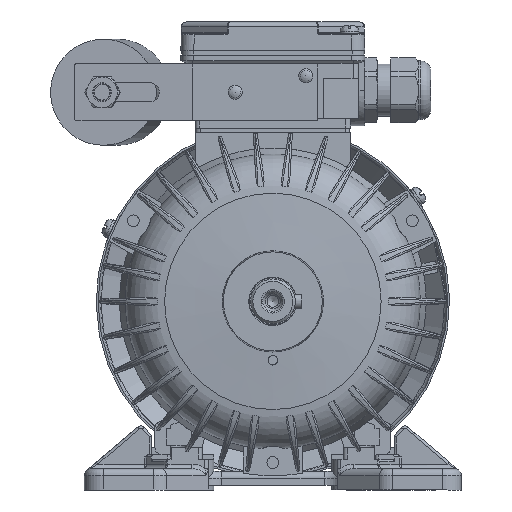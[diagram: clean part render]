
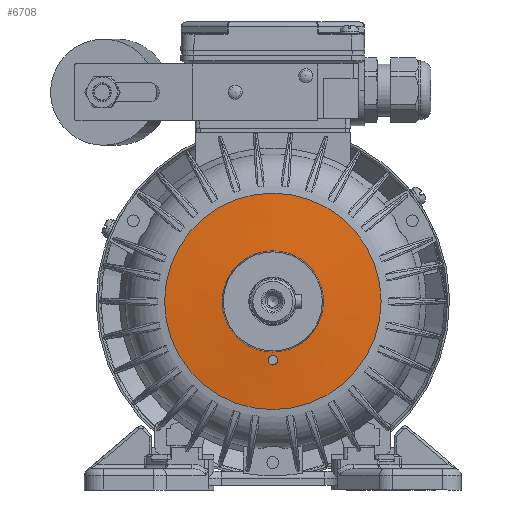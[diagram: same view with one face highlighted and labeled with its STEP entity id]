
A CAD part, left-side view. The second image highlights one B-rep face of the part: STEP entity #6708.
In plain terms, the highlighted conical face has half-angle 85.5 degrees and reference radius 21.472 mm.
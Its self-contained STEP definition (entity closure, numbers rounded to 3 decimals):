
#6708 = ADVANCED_FACE( '', ( #14633, #14634, #14635 ), #14636, .T. );
#14633 = FACE_OUTER_BOUND( '', #38634, .T. );
#14634 = FACE_BOUND( '', #38635, .T. );
#14635 = FACE_BOUND( '', #38636, .T. );
#14636 = CONICAL_SURFACE( '', #38637, 21.472, 1.492 );
#38634 = EDGE_LOOP( '', ( #75992 ) );
#38635 = EDGE_LOOP( '', ( #75993 ) );
#38636 = EDGE_LOOP( '', ( #75994 ) );
#38637 = AXIS2_PLACEMENT_3D( '', #75995, #75996, #75997 );
#75992 = ORIENTED_EDGE( '', *, *, #92518, .T. );
#75993 = ORIENTED_EDGE( '', *, *, #96889, .F. );
#75994 = ORIENTED_EDGE( '', *, *, #91438, .T. );
#75995 = CARTESIAN_POINT( '', ( 0., 6., 0. ) );
#75996 = DIRECTION( '', ( 0., 1., 0. ) );
#75997 = DIRECTION( '', ( 0., 0., 1. ) );
#91438 = EDGE_CURVE( '', #103792, #103792, #103793, .T. );
#92518 = EDGE_CURVE( '', #105645, #105645, #105646, .T. );
#96889 = EDGE_CURVE( '', #112264, #112264, #112265, .T. );
#103792 = VERTEX_POINT( '', #126391 );
#103793 = B_SPLINE_CURVE_WITH_KNOTS( '', 3, ( #126392, #126393, #126394, #126395, #126396, #126397, #126398, #126399, #126400, #126401, #126402, #126403, #126404, #126405, #126406, #126407, #126408, #126409, #126410, #126411, #126412, #126413, #126414, #126415, #126416, #126417, #126418, #126419, #126420, #126421, #126422, #126423, #126424, #126425, #126426, #126427, #126428, #126429, #126430, #126431, #126432, #126433, #126434, #126435, #126436, #126437, #126438, #126439, #126440, #126441, #126442, #126443, #126444, #126445, #126446, #126447 ), .UNSPECIFIED., .T., .F., ( 2, 2, 2, 2, 2, 2, 2, 2, 2, 2, 2, 2, 2, 2, 2, 2, 2, 2, 2, 2, 2, 2, 2, 2, 2, 2, 2, 2, 2, 2 ), ( -0.001, 0., 0., 0.001, 0.001, 0.002, 0.002, 0.003, 0.004, 0.004, 0.004, 0.005, 0.005, 0.005, 0.006, 0.006, 0.007, 0.007, 0.008, 0.008, 0.009, 0.009, 0.009, 0.01, 0.011, 0.011, 0.011, 0.012, 0.013, 0.013 ), .UNSPECIFIED. );
#105645 = VERTEX_POINT( '', #134606 );
#105646 = CIRCLE( '', #134607, 45.912 );
#112264 = VERTEX_POINT( '', #154084 );
#112265 = CIRCLE( '', #154085, 21.472 );
#126391 = CARTESIAN_POINT( '', ( -1.41, 6.392, -26.418 ) );
#126392 = CARTESIAN_POINT( '', ( -1.223, 6.406, -26.605 ) );
#126393 = CARTESIAN_POINT( '', ( -1.504, 6.385, -26.325 ) );
#126394 = CARTESIAN_POINT( '', ( -1.587, 6.378, -26.224 ) );
#126395 = CARTESIAN_POINT( '', ( -1.732, 6.362, -26.008 ) );
#126396 = CARTESIAN_POINT( '', ( -1.795, 6.353, -25.891 ) );
#126397 = CARTESIAN_POINT( '', ( -1.896, 6.334, -25.65 ) );
#126398 = CARTESIAN_POINT( '', ( -1.934, 6.325, -25.525 ) );
#126399 = CARTESIAN_POINT( '', ( -1.986, 6.305, -25.269 ) );
#126400 = CARTESIAN_POINT( '', ( -2., 6.295, -25.137 ) );
#126401 = CARTESIAN_POINT( '', ( -2.001, 6.264, -24.746 ) );
#126402 = CARTESIAN_POINT( '', ( -1.95, 6.243, -24.483 ) );
#126403 = CARTESIAN_POINT( '', ( -1.752, 6.204, -24.002 ) );
#126404 = CARTESIAN_POINT( '', ( -1.605, 6.186, -23.778 ) );
#126405 = CARTESIAN_POINT( '', ( -1.329, 6.163, -23.5 ) );
#126406 = CARTESIAN_POINT( '', ( -1.227, 6.155, -23.415 ) );
#126407 = CARTESIAN_POINT( '', ( -1.01, 6.143, -23.269 ) );
#126408 = CARTESIAN_POINT( '', ( -0.895, 6.138, -23.207 ) );
#126409 = CARTESIAN_POINT( '', ( -0.654, 6.129, -23.105 ) );
#126410 = CARTESIAN_POINT( '', ( -0.526, 6.126, -23.066 ) );
#126411 = CARTESIAN_POINT( '', ( -0.271, 6.121, -23.014 ) );
#126412 = CARTESIAN_POINT( '', ( -0.141, 6.12, -23.001 ) );
#126413 = CARTESIAN_POINT( '', ( 0.124, 6.12, -22.999 ) );
#126414 = CARTESIAN_POINT( '', ( 0.254, 6.121, -23.012 ) );
#126415 = CARTESIAN_POINT( '', ( 0.51, 6.126, -23.062 ) );
#126416 = CARTESIAN_POINT( '', ( 0.638, 6.129, -23.1 ) );
#126417 = CARTESIAN_POINT( '', ( 0.881, 6.137, -23.199 ) );
#126418 = CARTESIAN_POINT( '', ( 0.996, 6.142, -23.261 ) );
#126419 = CARTESIAN_POINT( '', ( 1.214, 6.155, -23.405 ) );
#126420 = CARTESIAN_POINT( '', ( 1.317, 6.162, -23.489 ) );
#126421 = CARTESIAN_POINT( '', ( 1.502, 6.177, -23.673 ) );
#126422 = CARTESIAN_POINT( '', ( 1.585, 6.185, -23.773 ) );
#126423 = CARTESIAN_POINT( '', ( 1.732, 6.203, -23.991 ) );
#126424 = CARTESIAN_POINT( '', ( 1.795, 6.213, -24.107 ) );
#126425 = CARTESIAN_POINT( '', ( 1.945, 6.242, -24.468 ) );
#126426 = CARTESIAN_POINT( '', ( 1.999, 6.263, -24.73 ) );
#126427 = CARTESIAN_POINT( '', ( 2.001, 6.293, -25.121 ) );
#126428 = CARTESIAN_POINT( '', ( 1.988, 6.304, -25.253 ) );
#126429 = CARTESIAN_POINT( '', ( 1.938, 6.324, -25.509 ) );
#126430 = CARTESIAN_POINT( '', ( 1.901, 6.333, -25.634 ) );
#126431 = CARTESIAN_POINT( '', ( 1.803, 6.352, -25.876 ) );
#126432 = CARTESIAN_POINT( '', ( 1.74, 6.36, -25.994 ) );
#126433 = CARTESIAN_POINT( '', ( 1.597, 6.377, -26.211 ) );
#126434 = CARTESIAN_POINT( '', ( 1.515, 6.384, -26.313 ) );
#126435 = CARTESIAN_POINT( '', ( 1.237, 6.405, -26.594 ) );
#126436 = CARTESIAN_POINT( '', ( 1.017, 6.416, -26.742 ) );
#126437 = CARTESIAN_POINT( '', ( 0.653, 6.427, -26.895 ) );
#126438 = CARTESIAN_POINT( '', ( 0.529, 6.43, -26.933 ) );
#126439 = CARTESIAN_POINT( '', ( 0.272, 6.434, -26.986 ) );
#126440 = CARTESIAN_POINT( '', ( 0.14, 6.435, -26.999 ) );
#126441 = CARTESIAN_POINT( '', ( -0.122, 6.435, -27.001 ) );
#126442 = CARTESIAN_POINT( '', ( -0.252, 6.434, -26.988 ) );
#126443 = CARTESIAN_POINT( '', ( -0.51, 6.431, -26.938 ) );
#126444 = CARTESIAN_POINT( '', ( -0.637, 6.428, -26.9 ) );
#126445 = CARTESIAN_POINT( '', ( -0.999, 6.417, -26.752 ) );
#126446 = CARTESIAN_POINT( '', ( -1.223, 6.406, -26.605 ) );
#126447 = CARTESIAN_POINT( '', ( -1.504, 6.385, -26.325 ) );
#134606 = CARTESIAN_POINT( '', ( 0., 7.923, -45.912 ) );
#134607 = AXIS2_PLACEMENT_3D( '', #171765, #171766, #171767 );
#154084 = CARTESIAN_POINT( '', ( 0., 6., -21.472 ) );
#154085 = AXIS2_PLACEMENT_3D( '', #177016, #177017, #177018 );
#171765 = CARTESIAN_POINT( '', ( 0., 7.923, 0. ) );
#171766 = DIRECTION( '', ( 0., -1., 0. ) );
#171767 = DIRECTION( '', ( 0., 0., -1. ) );
#177016 = CARTESIAN_POINT( '', ( 0., 6., 0. ) );
#177017 = DIRECTION( '', ( 0., -1., 0. ) );
#177018 = DIRECTION( '', ( 0., 0., -1. ) );
